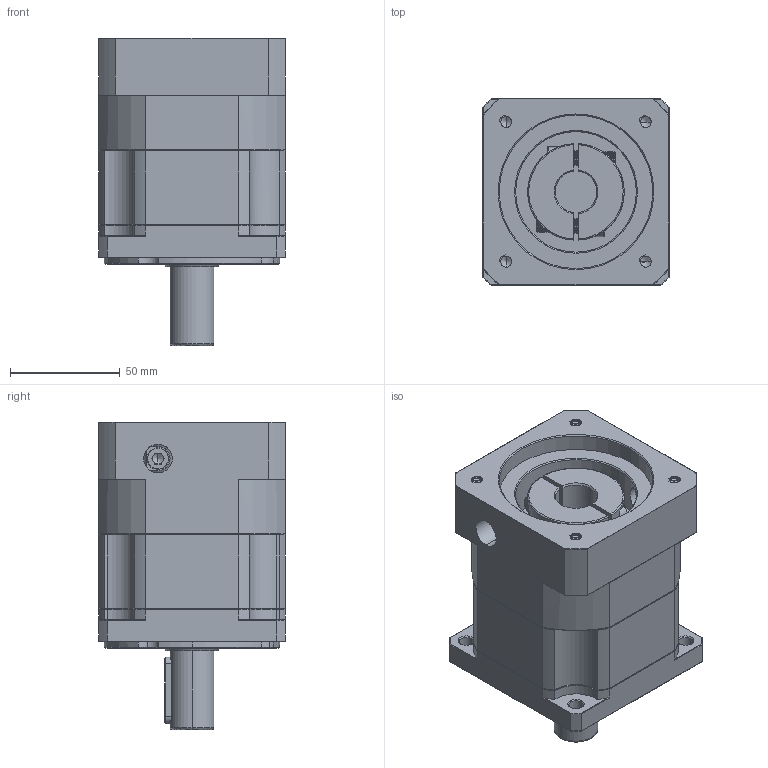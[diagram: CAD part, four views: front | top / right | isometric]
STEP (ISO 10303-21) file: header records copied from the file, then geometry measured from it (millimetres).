
FILE_DESCRIPTION (( 'STEP AP214' ), '1' );
FILE_NAME ('ZB090-D20-L1-P2-19-70-90-M6.step', '2023-08-18T12:09:24', ( '' ), ( '' ), 'SwSTEP 2.0', 'SolidWorks 2016', '' );
FILE_SCHEMA (( 'AUTOMOTIVE_DESIGN' ));
Length unit declared in the file: millimetre
Products named in the file (1): ZB090-D20-L1-P2-19-70-90-M6
Bounding box: 85 x 85 x 140 mm (x, y, z)
Volume: 607791.7 mm3; surface area: 84858.8 mm2
Topology: 4 solids, 4 shells, 2189 faces, 5845 edges, 3738 vertices
Faces by surface type: plane 1056, bspline 412, cylinder 390, cone 319, torus 12
Entity records: 119870 total; most frequent: CARTESIAN_POINT 44705, ORIENTED_EDGE 11646, DIRECTION 9008, EDGE_CURVE 5823, VERTEX_POINT 3738, VECTOR 3706, LINE 3706, AXIS2_PLACEMENT_3D 2651
